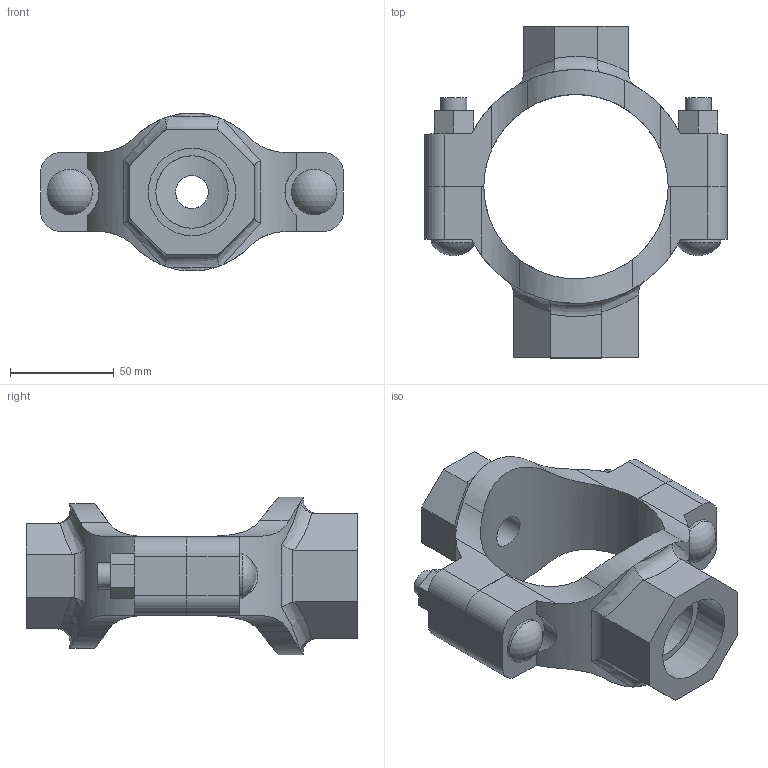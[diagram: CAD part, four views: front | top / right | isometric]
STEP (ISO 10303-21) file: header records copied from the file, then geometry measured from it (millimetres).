
FILE_DESCRIPTION(/* description */ ('VIC MECH-T BRANCH OUTLET CROSS STYLE 920N (THD)','CAx-IF Rec.Pracs.---Representation and Presentation of Product Manufacturing Information (PMI)---4.0---2014-10-13'),/* implementation_level */ '2;1');
FILE_NAME(/* name */ 'C:\Users\Vjadhav\AppData\Roaming\Autodesk\ApplicationPlugins\Back Up\Victaulic_IPS_Mechanical-Cross Outlet_Style 920N (FPT)\Victaulic_IPS_Mechanical-Cross Outlet_03.0x0.5x01.25 (80x15x32).stp',/* time_stamp */ '2020-08-06T18:57:09+05:00',/* author */ ('Vjadhav'),/* organization */ ('Victaulic'),/* preprocessor_version */ 'ST-DEVELOPER v17.2',/* originating_system */ 'Autodesk Inventor 2019',/* authorisation */ '');
FILE_SCHEMA (('AP242_MANAGED_MODEL_BASED_3D_ENGINEERING_MIM_LF { 1 0 10303 442 1 1 4 }'));
Length unit declared in the file: inch
Products named in the file (3): 920NT-03.0x0.5x01.25; 920NT-03.0x0.5; 920NT-03.0x01.25
Assembly tree (2 placements, depth 2):
  920NT-03.0x0.5x01.25
    920NT-03.0x0.5
    920NT-03.0x01.25
Bounding box: 146.05 x 160.02 x 76.2 mm (x, y, z)
Volume: 335402.7 mm3; surface area: 75721.8 mm2
Topology: 2 solids, 2 shells, 135 faces, 362 edges, 244 vertices
Faces by surface type: plane 68, cylinder 53, bspline 8, torus 4, sphere 2
Full cylindrical faces by diameter (mm): 12.7 x4, 15.799 x1, 21.336 x1, 21.982 x2, 34.925 x1, 42.164 x1
Entity records: 5255 total; most frequent: CARTESIAN_POINT 1664, ORIENTED_EDGE 724, DIRECTION 654, EDGE_CURVE 362, VERTEX_POINT 244, AXIS2_PLACEMENT_3D 234, LINE 186, VECTOR 186
